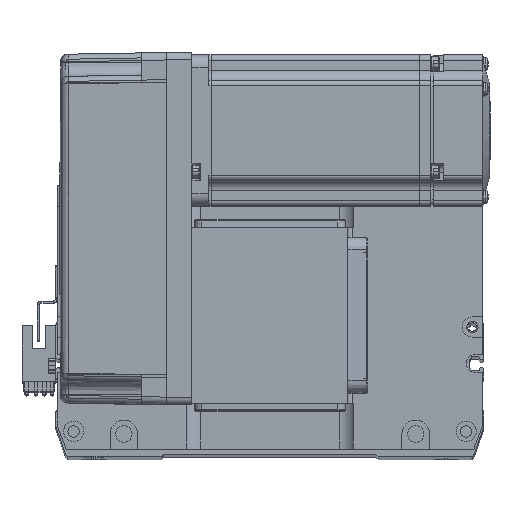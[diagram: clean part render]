
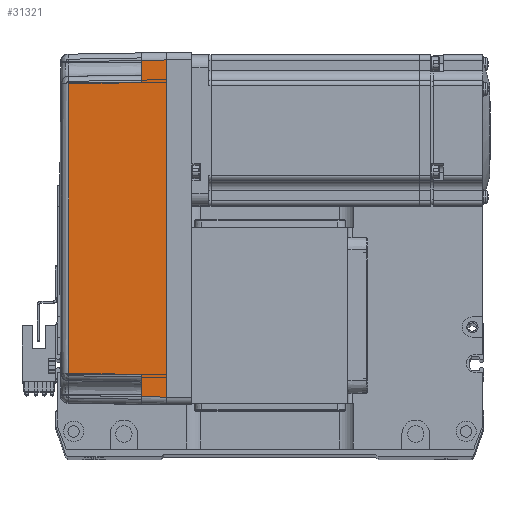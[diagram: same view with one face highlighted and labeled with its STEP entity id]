
A CAD part, top view. The second image highlights one B-rep face of the part: STEP entity #31321.
In plain terms, the highlighted planar face has unit normal (-0.018, 0, 1) as drawn and (0, 1, 0.017) by its records, which use the part's own axes.
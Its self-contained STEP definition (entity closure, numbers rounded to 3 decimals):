
#1204 = EDGE_CURVE ( 'NONE', #51509, #31800, #53476, .T. ) ;
#1261 = CARTESIAN_POINT ( 'NONE',  ( 70., 35.825, 10. ) ) ;
#1265 = CARTESIAN_POINT ( 'NONE',  ( -57.495, 35.32, 38.985 ) ) ;
#2506 = ORIENTED_EDGE ( 'NONE', *, *, #51146, .T. ) ;
#4072 = PLANE ( 'NONE',  #5911 ) ;
#4285 = CARTESIAN_POINT ( 'NONE',  ( 70., 36., 0. ) ) ;
#5215 = B_SPLINE_CURVE_WITH_KNOTS ( 'NONE', 3,
 ( #1265, #9982, #58345, #11216 ),
 .UNSPECIFIED., .F., .F.,
 ( 4, 4 ),
 ( 0., 1. ),
 .UNSPECIFIED. ) ;
#5911 = AXIS2_PLACEMENT_3D ( 'NONE', #4285, #23147, #61380 ) ;
#7201 = ORIENTED_EDGE ( 'NONE', *, *, #1204, .F. ) ;
#7830 = VECTOR ( 'NONE', #33648, 1000. ) ;
#8790 = CARTESIAN_POINT ( 'NONE',  ( 57.495, 35.32, 38.985 ) ) ;
#9443 = CARTESIAN_POINT ( 'NONE',  ( 0., 36., 0. ) ) ;
#9982 = CARTESIAN_POINT ( 'NONE',  ( -19.165, 35.316, 39.181 ) ) ;
#11216 = CARTESIAN_POINT ( 'NONE',  ( 57.495, 35.32, 38.985 ) ) ;
#14132 = CARTESIAN_POINT ( 'NONE',  ( 67.001, 36.001, -0.052 ) ) ;
#14361 = DIRECTION ( 'NONE',  ( 1., 0., 0. ) ) ;
#15593 = VECTOR ( 'NONE', #14361, 1000. ) ;
#16822 = CARTESIAN_POINT ( 'NONE',  ( 57.495, 35.32, 38.985 ) ) ;
#18177 = VERTEX_POINT ( 'NONE', #45207 ) ;
#18910 = CARTESIAN_POINT ( 'NONE',  ( -58., 35.825, 10. ) ) ;
#19226 = ORIENTED_EDGE ( 'NONE', *, *, #21569, .T. ) ;
#19511 = CARTESIAN_POINT ( 'NONE',  ( -67., 36., 0. ) ) ;
#19824 = VERTEX_POINT ( 'NONE', #8790 ) ;
#19914 = EDGE_CURVE ( 'NONE', #31800, #23296, #31776, .T. ) ;
#21136 = VERTEX_POINT ( 'NONE', #56950 ) ;
#21569 = EDGE_CURVE ( 'NONE', #19824, #38860, #48553, .T. ) ;
#23147 = DIRECTION ( 'NONE',  ( 0., 1., 0.017 ) ) ;
#23296 = VERTEX_POINT ( 'NONE', #27498 ) ;
#24302 = DIRECTION ( 'NONE',  ( -0.017, -0.017, 1. ) ) ;
#25625 = DIRECTION ( 'NONE',  ( 1., 0., 0. ) ) ;
#27498 = CARTESIAN_POINT ( 'NONE',  ( 66.826, 35.825, 10. ) ) ;
#27959 = ORIENTED_EDGE ( 'NONE', *, *, #41403, .T. ) ;
#28052 = ORIENTED_EDGE ( 'NONE', *, *, #19914, .F. ) ;
#29860 = DIRECTION ( 'NONE',  ( 1., 0., 0. ) ) ;
#31321 = ADVANCED_FACE ( 'NONE', ( #52926 ), #4072, .T. ) ;
#31530 = VECTOR ( 'NONE', #29860, 1000. ) ;
#31776 = LINE ( 'NONE', #14132, #55567 ) ;
#31800 = VERTEX_POINT ( 'NONE', #55529 ) ;
#33648 = DIRECTION ( 'NONE',  ( 0.017, -0.017, 1. ) ) ;
#33939 = CARTESIAN_POINT ( 'NONE',  ( 70., 35.825, 10. ) ) ;
#34247 = CARTESIAN_POINT ( 'NONE',  ( -58., 35.825, 10. ) ) ;
#35473 = VECTOR ( 'NONE', #38222, 1000. ) ;
#35944 = VECTOR ( 'NONE', #46039, 1000. ) ;
#36779 = LINE ( 'NONE', #18910, #7830 ) ;
#38222 = DIRECTION ( 'NONE',  ( 0.017, -0.017, 1. ) ) ;
#38860 = VERTEX_POINT ( 'NONE', #45274 ) ;
#41403 = EDGE_CURVE ( 'NONE', #21136, #19824, #5215, .T. ) ;
#43221 = VERTEX_POINT ( 'NONE', #34247 ) ;
#44390 = EDGE_CURVE ( 'NONE', #18177, #43221, #44865, .T. ) ;
#44865 = LINE ( 'NONE', #1261, #31530 ) ;
#45207 = CARTESIAN_POINT ( 'NONE',  ( -66.826, 35.825, 10. ) ) ;
#45274 = CARTESIAN_POINT ( 'NONE',  ( 58., 35.825, 10. ) ) ;
#46039 = DIRECTION ( 'NONE',  ( 0.017, 0.017, -1. ) ) ;
#48553 = LINE ( 'NONE', #16822, #35944 ) ;
#49875 = ORIENTED_EDGE ( 'NONE', *, *, #44390, .T. ) ;
#50157 = EDGE_CURVE ( 'NONE', #43221, #21136, #36779, .T. ) ;
#50825 = EDGE_LOOP ( 'NONE', ( #53932, #49875, #52206, #27959, #19226, #2506, #28052, #7201 ) ) ;
#51146 = EDGE_CURVE ( 'NONE', #38860, #23296, #53399, .T. ) ;
#51509 = VERTEX_POINT ( 'NONE', #19511 ) ;
#52206 = ORIENTED_EDGE ( 'NONE', *, *, #50157, .T. ) ;
#52359 = CARTESIAN_POINT ( 'NONE',  ( -67., 36., 0. ) ) ;
#52926 = FACE_OUTER_BOUND ( 'NONE', #50825, .T. ) ;
#53399 = LINE ( 'NONE', #33939, #59394 ) ;
#53476 = LINE ( 'NONE', #9443, #15593 ) ;
#53932 = ORIENTED_EDGE ( 'NONE', *, *, #57871, .T. ) ;
#55529 = CARTESIAN_POINT ( 'NONE',  ( 67., 36., 0. ) ) ;
#55567 = VECTOR ( 'NONE', #24302, 1000. ) ;
#56950 = CARTESIAN_POINT ( 'NONE',  ( -57.495, 35.32, 38.985 ) ) ;
#57871 = EDGE_CURVE ( 'NONE', #51509, #18177, #60732, .T. ) ;
#58345 = CARTESIAN_POINT ( 'NONE',  ( 19.165, 35.316, 39.181 ) ) ;
#59394 = VECTOR ( 'NONE', #25625, 1000. ) ;
#60732 = LINE ( 'NONE', #52359, #35473 ) ;
#61380 = DIRECTION ( 'NONE',  ( 0., -0.017, 1. ) ) ;
